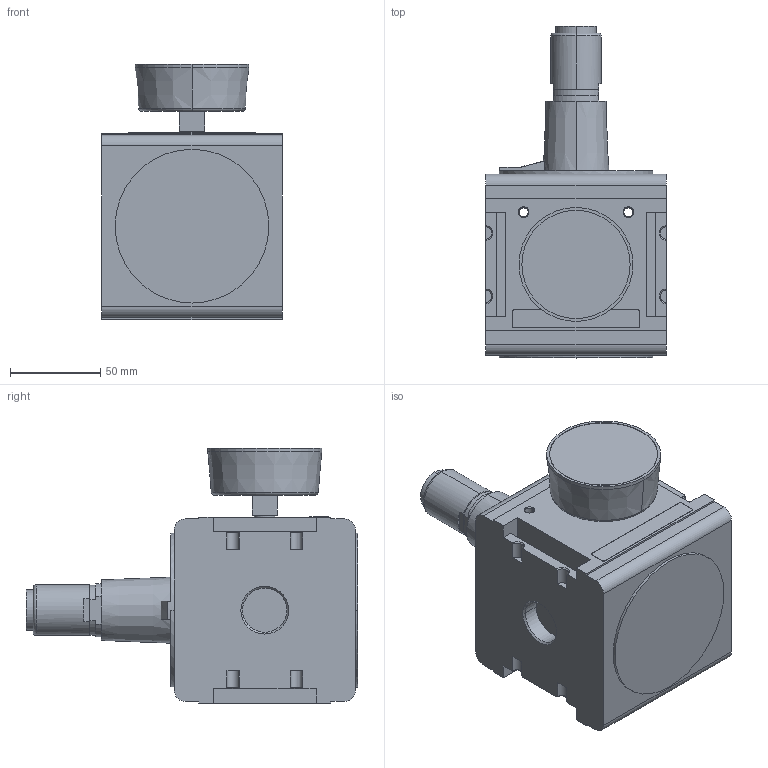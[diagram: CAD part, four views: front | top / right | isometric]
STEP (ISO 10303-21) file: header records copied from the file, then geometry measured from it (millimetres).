
FILE_DESCRIPTION((''),'2;1');
FILE_NAME('0821302803_ASM','2019-03-15T',('GIO1HC'),(''),'CREO PARAMETRIC BY PTC INC, 2016260','CREO PARAMETRIC BY PTC INC, 2016260','');
FILE_SCHEMA(('CONFIG_CONTROL_DESIGN'));
Length unit declared in the file: millimetre
Products named in the file (3): 0821302803-A; 1827231011; 0821302803_ASM
Assembly tree (2 placements, depth 2):
  0821302803_ASM
    0821302803-A
    1827231011
Bounding box: 100 x 183.5 x 141.2 mm (x, y, z)
Volume: 1137655.9 mm3; surface area: 90571.2 mm2
Topology: 2 solids, 2 shells, 190 faces, 473 edges, 306 vertices
Faces by surface type: plane 91, cylinder 62, cone 33, torus 4
Entity records: 5803 total; most frequent: DIRECTION 1032, CARTESIAN_POINT 1000, ORIENTED_EDGE 946, EDGE_CURVE 473, AXIS2_PLACEMENT_3D 368, VERTEX_POINT 306, VECTOR 296, LINE 296
